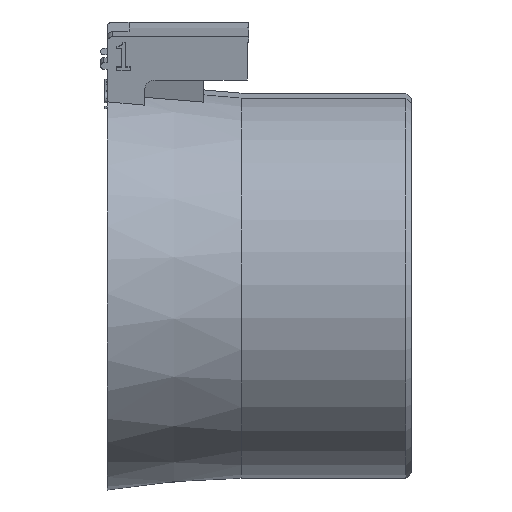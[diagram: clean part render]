
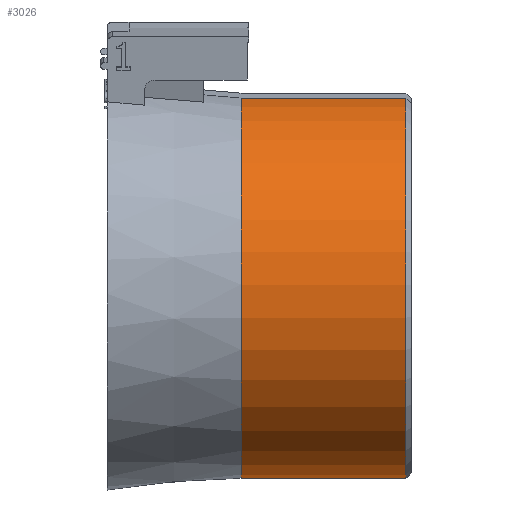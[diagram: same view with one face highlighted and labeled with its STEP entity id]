
A CAD part, front view. The second image highlights one B-rep face of the part: STEP entity #3026.
In plain terms, the highlighted cylindrical face has radius 17.5 mm (diameter 35 mm), a partial arc.
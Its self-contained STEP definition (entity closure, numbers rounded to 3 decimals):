
#49=CYLINDRICAL_SURFACE('',#3216,17.5);
#85=CIRCLE('',#3217,17.5);
#86=CIRCLE('',#3218,17.5);
#380=FACE_OUTER_BOUND('',#550,.T.);
#550=EDGE_LOOP('',(#2568,#2569,#2570,#2571));
#849=LINE('',#4983,#1169);
#867=LINE('',#5023,#1187);
#1169=VECTOR('',#3789,10.);
#1187=VECTOR('',#3817,10.);
#1462=VERTEX_POINT('',#4980);
#1463=VERTEX_POINT('',#4982);
#1479=VERTEX_POINT('',#5021);
#1480=VERTEX_POINT('',#5022);
#1846=EDGE_CURVE('',#1463,#1462,#849,.T.);
#1866=EDGE_CURVE('',#1479,#1480,#867,.T.);
#1867=EDGE_CURVE('',#1463,#1479,#85,.T.);
#1868=EDGE_CURVE('',#1480,#1462,#86,.T.);
#2568=ORIENTED_EDGE('',*,*,#1866,.F.);
#2569=ORIENTED_EDGE('',*,*,#1867,.F.);
#2570=ORIENTED_EDGE('',*,*,#1846,.T.);
#2571=ORIENTED_EDGE('',*,*,#1868,.F.);
#3026=ADVANCED_FACE('',(#380),#49,.T.);
#3216=AXIS2_PLACEMENT_3D('',#5020,#3815,#3816);
#3217=AXIS2_PLACEMENT_3D('',#5024,#3818,#3819);
#3218=AXIS2_PLACEMENT_3D('',#5025,#3820,#3821);
#3789=DIRECTION('',(-1.,0.,0.));
#3815=DIRECTION('center_axis',(-1.,0.,0.));
#3816=DIRECTION('ref_axis',(0.,-0.985,-0.174));
#3817=DIRECTION('',(-1.,0.,0.));
#3818=DIRECTION('center_axis',(1.,0.,0.));
#3819=DIRECTION('ref_axis',(0.,0.985,0.174));
#3820=DIRECTION('center_axis',(-1.,0.,0.));
#3821=DIRECTION('ref_axis',(0.,-0.985,-0.174));
#4980=CARTESIAN_POINT('',(11.43,-5.192,17.046));
#4982=CARTESIAN_POINT('',(26.5,-5.192,17.046));
#4983=CARTESIAN_POINT('',(19.215,-5.192,17.046));
#5020=CARTESIAN_POINT('Origin',(19.215,-2.153,-0.188));
#5021=CARTESIAN_POINT('',(26.5,0.446,-17.494));
#5022=CARTESIAN_POINT('',(11.43,0.446,-17.494));
#5023=CARTESIAN_POINT('',(19.215,0.446,-17.494));
#5024=CARTESIAN_POINT('Origin',(26.5,-2.153,-0.188));
#5025=CARTESIAN_POINT('Origin',(11.43,-2.153,-0.188));
